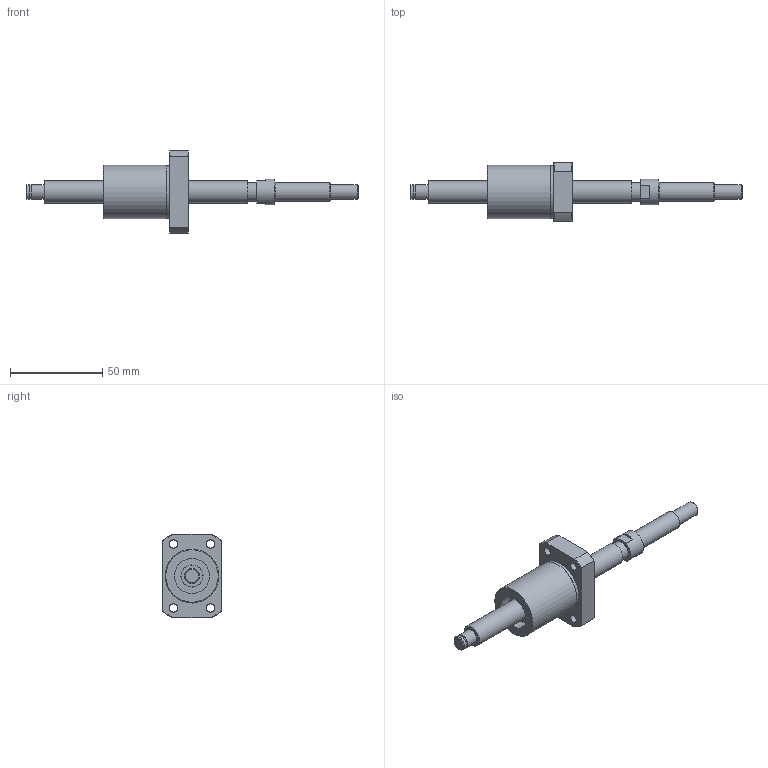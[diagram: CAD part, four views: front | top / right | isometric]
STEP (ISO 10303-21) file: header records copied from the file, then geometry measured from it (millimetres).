
FILE_DESCRIPTION(/* description */ ('STEP AP203'),/* implementation_level */ '2;1');
FILE_NAME(/* name */ 'BNK1208-2.6RRG2+180LC7Y(780)',/* time_stamp */ '2024-07-09T09:10:57+02:00',/* author */ ('License CC BY-ND 4.0'),/* organization */ ('CADENAS'),/* preprocessor_version */ 'ST-DEVELOPER v19.3',/* originating_system */ 'PARTsolutions',/* authorisation */ ' ');
FILE_SCHEMA (('CONFIG_CONTROL_DESIGN'));
Length unit declared in the file: millimetre
Products named in the file (3): BNK1208-2.6RRG2+180LC7Y(780); BNK 1208-2.6RRG2+180LC7Y Shaft; BNK 1208-2.6RRG2+180LC7YRR0 Nut
Assembly tree (2 placements, depth 2):
  BNK1208-2.6RRG2+180LC7Y(780)
    BNK 1208-2.6RRG2+180LC7Y Shaft
    BNK 1208-2.6RRG2+180LC7YRR0 Nut
Bounding box: 180 x 32 x 45 mm (x, y, z)
Volume: 46844.4 mm3; surface area: 16844.7 mm2
Topology: 2 solids, 2 shells, 76 faces, 158 edges, 101 vertices
Faces by surface type: plane 29, cylinder 29, cone 16, torus 2
Full cylindrical faces by diameter (mm): 3 x3, 4.5 x4, 4.917 x1, 7.6 x1, 8 x7, 10 x2, 12 x2, 14 x1, 19 x2, 28.4 x1, 29 x1
Entity records: 1972 total; most frequent: CARTESIAN_POINT 385, DIRECTION 332, ORIENTED_EDGE 236, AXIS2_PLACEMENT_3D 154, FACE_BOUND 140, EDGE_LOOP 139, EDGE_CURVE 118, VERTEX_POINT 98
